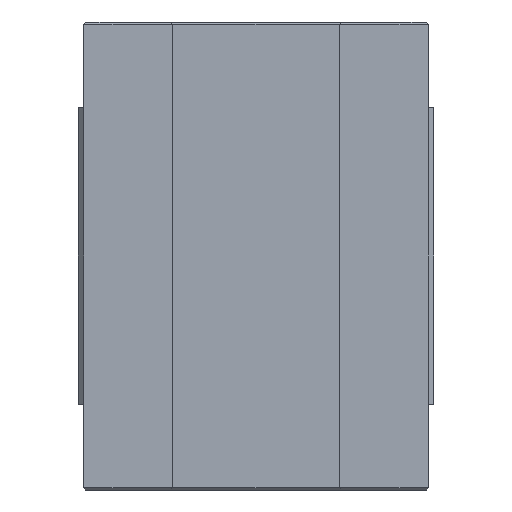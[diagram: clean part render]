
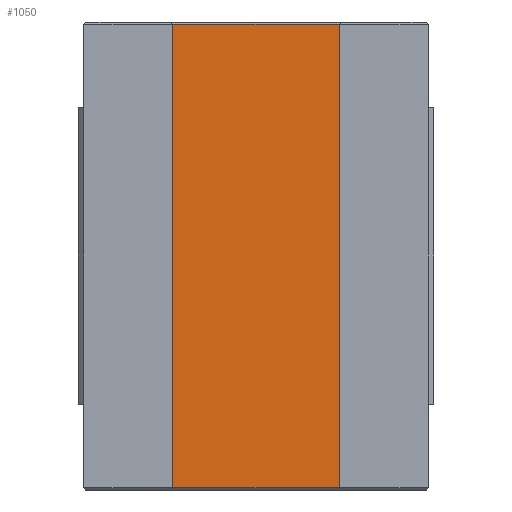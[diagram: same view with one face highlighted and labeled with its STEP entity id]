
A CAD part, front view. The second image highlights one B-rep face of the part: STEP entity #1050.
In plain terms, the highlighted planar face has unit normal (0, -1, 0).
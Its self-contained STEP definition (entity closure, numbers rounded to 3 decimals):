
#72=FACE_OUTER_BOUND('',#134,.T.);
#134=EDGE_LOOP('',(#745,#746,#747,#748));
#215=LINE('',#1546,#347);
#224=LINE('',#1564,#356);
#226=LINE('',#1568,#358);
#227=LINE('',#1569,#359);
#347=VECTOR('',#1247,10.);
#356=VECTOR('',#1262,10.);
#358=VECTOR('',#1266,10.);
#359=VECTOR('',#1267,10.);
#454=VERTEX_POINT('',#1494);
#469=VERTEX_POINT('',#1540);
#476=VERTEX_POINT('',#1563);
#477=VERTEX_POINT('',#1567);
#571=EDGE_CURVE('',#454,#469,#215,.T.);
#580=EDGE_CURVE('',#476,#469,#224,.T.);
#582=EDGE_CURVE('',#477,#454,#226,.T.);
#583=EDGE_CURVE('',#476,#477,#227,.T.);
#745=ORIENTED_EDGE('',*,*,#571,.F.);
#746=ORIENTED_EDGE('',*,*,#582,.F.);
#747=ORIENTED_EDGE('',*,*,#583,.F.);
#748=ORIENTED_EDGE('',*,*,#580,.T.);
#1000=PLANE('',#1132);
#1050=ADVANCED_FACE('',(#72),#1000,.T.);
#1132=AXIS2_PLACEMENT_3D('',#1566,#1264,#1265);
#1247=DIRECTION('',(1.,0.,0.));
#1262=DIRECTION('',(0.,0.,1.));
#1264=DIRECTION('center_axis',(0.,-1.,0.));
#1265=DIRECTION('ref_axis',(1.,0.,0.));
#1266=DIRECTION('',(0.,0.,1.));
#1267=DIRECTION('',(-1.,0.,0.));
#1494=CARTESIAN_POINT('',(-7.5,10.,20.85));
#1540=CARTESIAN_POINT('',(7.5,10.,20.85));
#1546=CARTESIAN_POINT('',(-3.75,10.,20.85));
#1563=CARTESIAN_POINT('',(7.5,10.,-20.85));
#1564=CARTESIAN_POINT('',(7.5,10.,0.));
#1566=CARTESIAN_POINT('Origin',(-7.5,10.,0.));
#1567=CARTESIAN_POINT('',(-7.5,10.,-20.85));
#1568=CARTESIAN_POINT('',(-7.5,10.,0.));
#1569=CARTESIAN_POINT('',(-3.75,10.,-20.85));
